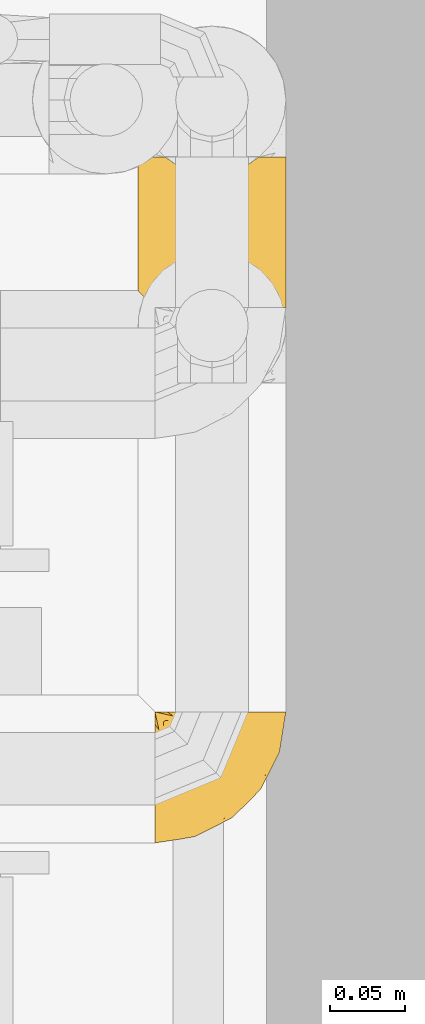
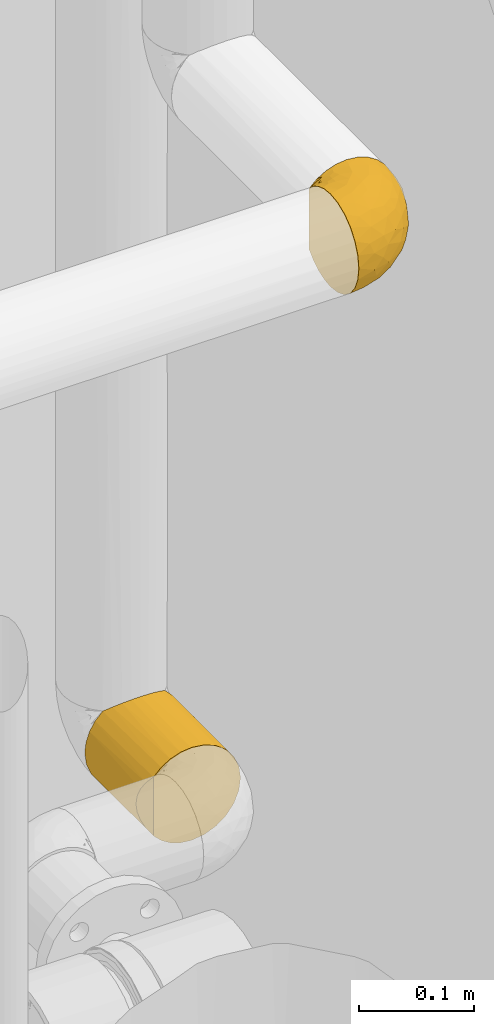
# One storey, part 64 of 94: 2 coverings.
"""IFC2X3 building model written with IfcOpenShell, lengths in millimetres."""

from ifc_helpers import new_model, entity, si_unit, converted_unit, derived_unit, direction, frame, origin, place, context, subcontext, project, spatial, faceted_brep, material, element, save


model = new_model("IFC2X3")

# Units and contexts
model_context = context("Model", 3, precision=0.01, world=origin(), true_north=direction((6.123031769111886e-17, 1.0)))
body_context = subcontext(model_context, "Body", "Model", "MODEL_VIEW")
ifc_project = project(units=[si_unit("LENGTHUNIT", "METRE", prefix="MILLI"), si_unit("AREAUNIT", "SQUARE_METRE"), si_unit("VOLUMEUNIT", "CUBIC_METRE"), converted_unit("PLANEANGLEUNIT", "DEGREE", entity("IfcRatioMeasure", 0.017453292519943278), si_unit("PLANEANGLEUNIT", "RADIAN"), dimensions=[0, 0, 0, 0, 0, 0, 0]), si_unit("MASSUNIT", "GRAM", prefix="KILO"), derived_unit("MASSDENSITYUNIT", [(si_unit("MASSUNIT", "GRAM", prefix="KILO"), 1), (si_unit("LENGTHUNIT", "METRE"), -3)]), derived_unit("IONCONCENTRATIONUNIT", [(si_unit("MASSUNIT", "GRAM", prefix="KILO"), 1), (si_unit("LENGTHUNIT", "METRE"), -3)]), derived_unit("MOMENTOFINERTIAUNIT", [(si_unit("LENGTHUNIT", "METRE"), 4)]), si_unit("TIMEUNIT", "SECOND"), si_unit("FREQUENCYUNIT", "HERTZ"), si_unit("THERMODYNAMICTEMPERATUREUNIT", "DEGREE_CELSIUS"), derived_unit("THERMALTRANSMITTANCEUNIT", [(si_unit("MASSUNIT", "GRAM", prefix="KILO"), 1), (si_unit("THERMODYNAMICTEMPERATUREUNIT", "KELVIN"), -1), (si_unit("TIMEUNIT", "SECOND"), -3)]), derived_unit("THERMALCONDUCTANCEUNIT", [(si_unit("MASSUNIT", "GRAM", prefix="KILO"), 1), (si_unit("THERMODYNAMICTEMPERATUREUNIT", "KELVIN"), -1), (si_unit("TIMEUNIT", "SECOND"), -3), (si_unit("LENGTHUNIT", "METRE"), 1)]), derived_unit("VOLUMETRICFLOWRATEUNIT", [(si_unit("LENGTHUNIT", "METRE"), 3), (si_unit("TIMEUNIT", "SECOND"), -1)]), derived_unit("MASSFLOWRATEUNIT", [(si_unit("MASSUNIT", "GRAM", prefix="KILO"), 1), (si_unit("TIMEUNIT", "SECOND"), -1)]), derived_unit("ROTATIONALFREQUENCYUNIT", [(si_unit("TIMEUNIT", "SECOND"), -1)]), si_unit("ELECTRICCURRENTUNIT", "AMPERE"), si_unit("ELECTRICVOLTAGEUNIT", "VOLT"), si_unit("POWERUNIT", "WATT"), si_unit("FORCEUNIT", "NEWTON", prefix="KILO"), si_unit("ILLUMINANCEUNIT", "LUX"), si_unit("LUMINOUSFLUXUNIT", "LUMEN"), si_unit("LUMINOUSINTENSITYUNIT", "CANDELA"), derived_unit("USERDEFINED", [(si_unit("MASSUNIT", "GRAM", prefix="KILO"), -1), (si_unit("LENGTHUNIT", "METRE"), -2), (si_unit("TIMEUNIT", "SECOND"), 3), (si_unit("LUMINOUSFLUXUNIT", "LUMEN"), 1)]), derived_unit("USERDEFINED", [(si_unit("MASSUNIT", "GRAM", prefix="KILO"), 1), (si_unit("TIMEUNIT", "SECOND"), -3), (si_unit("LENGTHUNIT", "METRE"), 3), (si_unit("ELECTRICCURRENTUNIT", "AMPERE"), -2)]), derived_unit("SOUNDPOWERUNIT", [(si_unit("MASSUNIT", "GRAM", prefix="KILO"), 1), (si_unit("TIMEUNIT", "SECOND"), -3), (si_unit("LENGTHUNIT", "METRE"), 2)]), derived_unit("SOUNDPRESSUREUNIT", [(si_unit("MASSUNIT", "GRAM", prefix="KILO"), 1), (si_unit("LENGTHUNIT", "METRE"), -1), (si_unit("TIMEUNIT", "SECOND"), -2)]), derived_unit("LINEARVELOCITYUNIT", [(si_unit("LENGTHUNIT", "METRE"), 1), (si_unit("TIMEUNIT", "SECOND"), -1)]), si_unit("PRESSUREUNIT", "PASCAL"), derived_unit("USERDEFINED", [(si_unit("MASSUNIT", "GRAM", prefix="KILO"), 1), (si_unit("LENGTHUNIT", "METRE"), -2), (si_unit("TIMEUNIT", "SECOND"), -2)]), derived_unit("LINEARFORCEUNIT", [(si_unit("MASSUNIT", "GRAM", prefix="KILO"), 1), (si_unit("TIMEUNIT", "SECOND"), -2)]), derived_unit("PLANARFORCEUNIT", [(si_unit("MASSUNIT", "GRAM", prefix="KILO"), 1), (si_unit("LENGTHUNIT", "METRE"), -1), (si_unit("TIMEUNIT", "SECOND"), -2)]), derived_unit("SPECIFICHEATCAPACITYUNIT", [(si_unit("THERMODYNAMICTEMPERATUREUNIT", "KELVIN"), -1), (si_unit("LENGTHUNIT", "METRE"), 2), (si_unit("TIMEUNIT", "SECOND"), -2)]), derived_unit("HEATINGVALUEUNIT", [(si_unit("LENGTHUNIT", "METRE"), 2), (si_unit("TIMEUNIT", "SECOND"), -2)]), derived_unit("VAPORPERMEABILITYUNIT", [(si_unit("LENGTHUNIT", "METRE"), -1), (si_unit("TIMEUNIT", "SECOND"), 1)]), derived_unit("DYNAMICVISCOSITYUNIT", [(si_unit("MASSUNIT", "GRAM", prefix="KILO"), 1), (si_unit("TIMEUNIT", "SECOND"), -1), (si_unit("LENGTHUNIT", "METRE"), -1)]), derived_unit("THERMALEXPANSIONCOEFFICIENTUNIT", [(si_unit("THERMODYNAMICTEMPERATUREUNIT", "KELVIN"), -1)]), derived_unit("MODULUSOFELASTICITYUNIT", [(si_unit("MASSUNIT", "GRAM", prefix="KILO"), 1), (si_unit("LENGTHUNIT", "METRE"), -1), (si_unit("TIMEUNIT", "SECOND"), -2)]), derived_unit("ISOTHERMALMOISTURECAPACITYUNIT", [(si_unit("LENGTHUNIT", "METRE"), 3), (si_unit("MASSUNIT", "GRAM", prefix="KILO"), -1)]), derived_unit("MOISTUREDIFFUSIVITYUNIT", [(si_unit("TIMEUNIT", "SECOND"), -1), (si_unit("LENGTHUNIT", "METRE"), 2)])], contexts=[model_context])

# Site, building, storey
site_placement = place(None, origin())
site = spatial("IfcSite", under=ifc_project, at=site_placement, Name="Default", CompositionType="ELEMENT")
building_placement = place(site_placement, origin())
building = spatial("IfcBuilding", under=site, at=building_placement, CompositionType="ELEMENT")
storey_placement = place(building_placement, origin())
storey = spatial("IfcBuildingStorey", under=building, at=storey_placement, Name="Niveau 0", CompositionType="ELEMENT", Elevation=0.0)

# Coverings
ifc_material = material(Name="Isolation - Laine minérale")
covering_1_placement = place(storey_placement, frame((-5828.502951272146, 9531.338570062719, 1313.1524263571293)))
element("IfcCovering", 1, at=covering_1_placement, inside=storey, material=ifc_material, Name="Isolation des canalisations:Laine minérale", ObjectType="Isolation des canalisations:Laine minérale", PredefinedType="INSULATION", context=body_context, shape_type="Brep", body=[
    faceted_brep([(60.92870482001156, 88.74527223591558, 95.02775152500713), (70.24794211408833, 88.74527223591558, 89.17046799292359), (78.0291172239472, 88.74527223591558, 81.38726791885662), (83.88300198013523, 88.74527223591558, 72.06852931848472), (87.51671876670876, 88.74527223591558, 61.68113447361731), (88.74824888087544, 88.74527223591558, 50.75055044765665), (87.51537089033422, 88.74527223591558, 39.80810715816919), (83.87842685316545, 88.74527223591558, 29.417117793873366), (78.02114332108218, 88.74527223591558, 20.097880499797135), (70.23794324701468, 88.74527223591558, 12.316705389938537), (60.91920464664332, 88.74527223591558, 6.462820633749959), (50.53180980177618, 88.74527223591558, 2.829103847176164), (39.60122577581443, 88.74527223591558, 1.597573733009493), (28.94206896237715, 88.74527223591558, 2.7666573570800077), (18.793644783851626, 88.74527223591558, 6.217909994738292), (9.636914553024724, 88.74527223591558, 11.78552878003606), (1.9137793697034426, 88.74527223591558, 19.19439233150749), (1.9136313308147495, 88.74527223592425, 21.638661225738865), (1.913523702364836, 88.74527223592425, 23.41571369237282), (1.9134160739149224, 88.74527223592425, 25.19276615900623), (1.9133252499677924, 88.74527223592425, 26.692359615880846), (1.913234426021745, 88.74527223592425, 28.191953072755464), (1.913052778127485, 88.74527223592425, 31.19113998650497), (1.912871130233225, 88.74527223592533, 34.190326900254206), (1.9126894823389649, 88.74527223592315, 37.18951381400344), (1.9125078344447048, 88.74527223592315, 40.188700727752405), (1.9124170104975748, 88.74527223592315, 41.68829418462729), (1.9123261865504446, 88.74527223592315, 43.18788764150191), (1.9121781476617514, 88.74527223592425, 45.63215653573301), (1.9120301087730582, 88.74527223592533, 48.07642542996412), (1.911882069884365, 88.74527223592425, 50.52069432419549), (1.9117340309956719, 88.74527223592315, 52.96496321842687), (1.9115859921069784, 88.74527223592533, 55.40923211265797), (1.9114379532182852, 88.74527223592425, 57.853501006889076), (1.911289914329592, 88.74527223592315, 60.297769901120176), (1.9111418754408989, 88.74527223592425, 62.74203879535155), (1.9109938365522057, 88.74527223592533, 65.18630768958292), (1.9108457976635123, 88.74527223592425, 67.63057658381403), (1.910697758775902, 88.74527223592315, 70.07484547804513), (1.9105497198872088, 88.74527223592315, 72.51911437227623), (1.9104016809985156, 88.74527223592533, 74.9633832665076), (1.9102536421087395, 88.74527223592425, 77.40765216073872), (1.910105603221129, 88.74527223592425, 79.85192105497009), (1.9099575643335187, 88.74527223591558, 82.29618994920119), (9.648808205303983, 88.74527223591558, 89.71876169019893), (18.80968562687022, 88.74527223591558, 95.2847281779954), (28.956714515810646, 88.74527223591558, 98.7317402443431), (39.595272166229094, 88.74527223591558, 99.89757355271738), (50.53771545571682, 88.74527223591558, 98.6646955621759), (1.600609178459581, 80.69858068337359, 11.77705679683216), (1.6009462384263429, 71.54185633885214, 6.211862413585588), (1.6011551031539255, 61.39669016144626, 2.7632985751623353), (1.6012258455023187, 50.74527223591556, 1.5952722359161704), (1.6011244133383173, 38.02431616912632, 3.2700178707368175), (1.6008270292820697, 26.17027223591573, 8.180123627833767), (1.6003539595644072, 15.990973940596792, 15.990973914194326), (1.5997374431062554, 8.180123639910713, 26.170272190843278), (1.5990194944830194, 3.270017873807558, 38.02431610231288), (1.5982490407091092, 1.5952722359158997, 50.745272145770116), (1.597478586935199, 3.270017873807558, 63.46622818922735), (1.596760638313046, 8.180123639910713, 75.32027210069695), (1.5961441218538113, 15.990973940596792, 85.4995703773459), (1.5956710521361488, 26.17027223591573, 93.31042066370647), (1.595373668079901, 38.02431616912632, 98.22052642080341), (1.5952722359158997, 50.74527223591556, 99.89527205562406), (1.595342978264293, 61.39669016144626, 98.7272457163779), (1.5955518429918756, 71.54185633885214, 95.27868187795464), (1.5958889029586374, 80.69858068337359, 89.71348749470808), (1.596338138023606, 88.43165280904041, 82.29617095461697), (1.596486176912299, 88.43165280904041, 79.85190206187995), (1.596577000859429, 88.43165280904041, 78.35230860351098), (1.5966964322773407, 88.43165280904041, 76.38037742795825), (1.5968158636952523, 88.43165280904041, 74.40844625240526), (1.5969352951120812, 88.4316528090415, 72.43651507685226), (1.5970547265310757, 88.43165280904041, 70.46458390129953), (1.5971741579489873, 88.43165280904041, 68.49265272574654), (1.597293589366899, 88.43165280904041, 66.52072155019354), (1.5974130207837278, 88.43165280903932, 64.54879037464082), (1.5975324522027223, 88.43165280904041, 62.57685919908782), (1.597651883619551, 88.43165280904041, 60.604928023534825), (1.5977713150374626, 88.4316528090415, 58.6329968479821), (1.5978907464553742, 88.43165280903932, 56.6610656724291), (1.598010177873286, 88.43165280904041, 54.68913449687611), (1.5981296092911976, 88.43165280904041, 52.71720332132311), (1.5982490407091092, 88.43165280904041, 50.745272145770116), (1.5983684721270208, 88.43165280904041, 48.77334097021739), (1.5984879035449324, 88.43165280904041, 46.801409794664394), (1.5986073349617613, 88.43165280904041, 44.82947861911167), (1.5987267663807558, 88.4316528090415, 42.85754744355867), (1.5988461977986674, 88.43165280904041, 40.88561626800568), (1.5989656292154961, 88.43165280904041, 38.91368509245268), (1.599085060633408, 88.43165280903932, 36.941753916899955), (1.5992044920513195, 88.43165280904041, 34.96982274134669), (1.5993861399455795, 88.43165280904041, 31.970635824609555), (1.5995677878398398, 88.4316528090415, 28.971448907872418), (1.599715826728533, 88.43165280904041, 26.52718001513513), (1.599863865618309, 88.43165280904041, 24.082911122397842), (1.6000119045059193, 88.43165280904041, 21.63864222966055), (1.6001599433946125, 88.43165280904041, 19.194373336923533), (1.812437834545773, 88.51635690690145, 53.7533525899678), (1.8213470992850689, 88.52492022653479, 51.832778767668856), (1.821649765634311, 88.5258216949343, 61.472915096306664), (1.8149649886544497, 88.51932032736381, 63.56283845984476), (1.802762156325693, 88.50736577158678, 48.00103931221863), (1.806851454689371, 88.51252801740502, 77.25000657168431), (1.8504013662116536, 88.5612663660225, 80.69915357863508), (1.825921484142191, 88.52905186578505, 42.43808513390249), (1.821700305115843, 88.52350980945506, 22.860789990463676), (1.8196172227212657, 88.5215555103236, 24.70022970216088), (1.8257393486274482, 88.53071361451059, 71.3701032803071), (1.8154057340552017, 88.52032288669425, 73.4038519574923), (1.8392149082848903, 88.54408236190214, 44.41001713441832), (1.8146507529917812, 88.51753811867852, 37.92773206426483), (1.811007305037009, 88.51424763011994, 39.8130981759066), (1.8285637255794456, 88.5314403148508, 35.95580176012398), (1.814438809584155, 88.51801699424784, 49.75931951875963), (1.8182940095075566, 88.52350981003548, 79.1021188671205), (1.819403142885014, 88.52112749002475, 21.027588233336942), (1.8065736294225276, 88.51110665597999, 55.67511318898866), (1.805027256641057, 88.51037001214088, 67.50670013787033), (1.8098887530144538, 88.51465616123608, 65.61455975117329), (1.810266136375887, 88.5132544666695, 34.10459364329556), (1.8094090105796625, 88.51376773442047, 57.552187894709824), (1.807096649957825, 88.51264803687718, 75.39442478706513), (1.8181005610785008, 88.5235098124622, 82.29618438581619), (1.8467305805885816, 88.59262879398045, 82.29618611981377), (1.8753606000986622, 88.66174777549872, 82.29618785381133), (1.8219223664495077, 88.5235098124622, 19.194386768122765), (1.7528033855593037, 88.49487979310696, 19.19438258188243), (1.683684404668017, 88.46624977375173, 19.194378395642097), (1.8346372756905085, 88.5378905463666, 32.212171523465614), (1.8119644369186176, 88.51680397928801, 69.43560512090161), (1.8213260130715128, 88.52455691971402, 46.248301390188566), (1.8182873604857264, 88.52232177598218, 59.49062660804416), (1.8390196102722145, 88.54277043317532, 29.419266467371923), (1.8174912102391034, 88.51964668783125, 27.442150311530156), (1.6798625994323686, 88.46624977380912, 82.29617601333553), (1.7489815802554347, 88.49487979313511, 82.29618019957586), (1.8791824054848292, 88.66174777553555, 19.194390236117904), (1.8505523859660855, 88.59262879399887, 19.194388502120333), (5.125538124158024, 66.84532494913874, 4.2104972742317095), (4.409954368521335, 76.5927881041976, 8.744349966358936), (9.268261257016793, 67.93076460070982, 4.2107481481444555), (7.2130993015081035, 79.77802179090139, 9.955923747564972), (11.101225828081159, 53.290789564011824, 1.5958476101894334), (9.057595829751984, 52.7432005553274, 1.5957238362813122), (34.510191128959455, 69.7452722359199, 1.5972653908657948), (23.950886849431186, 74.32039473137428, 2.936851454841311), (22.40593543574, 81.07886680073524, 4.214712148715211), (20.601225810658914, 55.83630689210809, 1.5964229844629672), (9.672241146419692, 80.67264697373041, 9.405794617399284), (10.557070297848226, 83.13763204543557, 9.96402992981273), (16.025323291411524, 66.39579772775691, 2.9365154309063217), (23.491633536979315, 85.2211537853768, 4.2147779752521), (13.742701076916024, 85.93765126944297, 8.751390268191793), (10.697130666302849, 72.79903813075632, 5.69117869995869), (37.60329750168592, 81.28890239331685, 1.5974527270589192), (37.0557084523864, 79.24527223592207, 1.5974195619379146), (16.734638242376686, 73.61168502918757, 4.483536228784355), (27.555708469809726, 62.79078956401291, 1.5968441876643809), (16.466360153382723, 78.26898539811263, 5.766957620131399), (15.017299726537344, 42.71659351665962, 2.6125376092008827), (24.43569184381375, 46.3391033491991, 2.6589146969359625), (36.49830628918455, 31.440845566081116, 11.133691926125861), (31.20882164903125, 17.67282959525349, 20.826441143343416), (19.17976044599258, 23.1389879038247, 11.753019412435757), (23.3408187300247, 36.2607021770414, 5.337909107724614), (11.46575858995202, 32.79943692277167, 5.337190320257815), (52.823733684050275, 18.239441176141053, 50.74837465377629), (28.529080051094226, 5.860696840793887, 50.746903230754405), (36.46895004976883, 10.09253095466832, 40.34185140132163), (64.56109797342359, 76.48910815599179, 9.128056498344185), (54.102148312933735, 75.175259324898, 4.354225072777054), (60.7817349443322, 29.562886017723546, 32.650538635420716), (59.57447306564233, 34.954708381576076, 23.77242057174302), (75.05221480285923, 46.44316922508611, 35.619766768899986), (19.030210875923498, 4.214063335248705, 41.697189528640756), (43.10371936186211, 17.10886083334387, 30.512331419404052), (46.84138436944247, 25.5931587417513, 21.75117045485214), (15.055480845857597, 12.936813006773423, 20.825462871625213), (23.241930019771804, 8.193374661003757, 31.93769349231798), (53.24642555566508, 37.51142897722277, 15.98747406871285), (45.830841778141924, 41.46157905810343, 9.512382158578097), (56.64112746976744, 49.733323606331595, 11.409102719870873), (46.29467440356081, 61.57059128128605, 3.726239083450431), (60.30196070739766, 62.89209880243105, 9.127798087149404), (72.03328828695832, 70.54017915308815, 15.988613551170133), (84.48282428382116, 61.81444117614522, 50.750292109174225), (83.30309850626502, 67.6249225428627, 34.51029949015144), (64.73100228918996, 48.02305876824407, 18.539758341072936), (74.45818949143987, 56.65671676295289, 24.592606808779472), (79.74469608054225, 73.53357104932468, 24.592926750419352), (51.840443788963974, 19.261963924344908, 39.07890166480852), (64.9988492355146, 30.008052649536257, 42.35002472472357), (37.182935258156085, 56.96722300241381, 2.565407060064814), (72.10407997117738, 37.51978749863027, 50.74954238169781), (37.65160985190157, 46.87511479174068, 4.724632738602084), (32.1664897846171, 11.140369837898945, 69.55601236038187), (18.642073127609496, 4.095656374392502, 59.586140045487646), (35.768635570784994, 9.50247429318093, 59.86749528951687), (47.844538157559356, 17.812384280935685, 66.14069790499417), (15.280027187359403, 6.466565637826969, 69.55499080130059), (65.816275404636, 54.5418837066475, 85.49721135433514), (64.55546793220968, 42.32008170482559, 78.99240277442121), (74.4637066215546, 56.65317707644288, 76.89184391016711), (53.251624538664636, 37.50209525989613, 85.49607367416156), (54.6284910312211, 30.584563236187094, 78.28987695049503), (54.10920276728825, 75.17052823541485, 97.13797153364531), (19.802559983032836, 44.78912737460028, 98.95413842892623), (20.595272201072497, 55.83630689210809, 99.89642280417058), (11.09527221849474, 53.290789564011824, 99.89584742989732), (83.30623893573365, 67.62586672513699, 66.97668734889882), (21.100847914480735, 14.263403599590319, 80.66707767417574), (60.31048883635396, 62.885892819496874, 92.36048289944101), (64.57075570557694, 76.48653547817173, 92.36074047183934), (13.465755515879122, 21.869885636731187, 89.7393081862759), (16.33603658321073, 33.88211097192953, 96.15484438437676), (41.93130183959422, 22.251999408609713, 79.62728153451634), (27.7156290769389, 26.047823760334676, 89.7401720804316), (59.122213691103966, 24.329288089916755, 59.511643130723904), (60.782080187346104, 29.560349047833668, 68.83811313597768), (10.513928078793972, 42.32143211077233, 99.01317501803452), (79.7506633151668, 73.5314346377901, 76.89216435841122), (75.05535861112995, 46.439690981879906, 65.86097147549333), (72.04190982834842, 70.53686254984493, 85.49721007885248), (46.2908025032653, 61.55381762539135, 97.7665918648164), (34.504237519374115, 69.7452722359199, 99.89726521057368), (36.10524890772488, 54.855477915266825, 98.79139945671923), (27.549754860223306, 62.790789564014, 99.89684400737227), (37.59734389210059, 81.28890239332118, 99.89745254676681), (37.049754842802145, 79.24527223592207, 99.89741938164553), (41.92893725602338, 37.17763207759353, 91.5063030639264), (26.19770746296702, 38.28745994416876, 96.42832113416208), (50.23455026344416, 48.939507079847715, 93.15286513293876), (27.449859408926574, 49.619322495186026, 99.08493754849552), (42.668602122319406, 29.4237689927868, 86.09356300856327), (34.95118101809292, 44.39993285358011, 96.68018909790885), (9.262624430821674, 67.93076584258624, 97.28072448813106), (12.075131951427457, 73.87629022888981, 95.72725850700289), (16.01989651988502, 66.3972519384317, 98.55553187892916), (5.11990138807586, 66.84532555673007, 97.28047374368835), (4.404866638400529, 76.59278866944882, 92.74653425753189), (7.208478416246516, 79.77567656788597, 91.53675094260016), (7.659156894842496, 82.68391989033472, 90.11312334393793), (16.723655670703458, 73.61706313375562, 97.00611122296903), (10.583278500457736, 83.12402653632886, 91.5501983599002), (22.422248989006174, 81.07735934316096, 97.28553166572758), (23.50735499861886, 85.22095110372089, 97.28559752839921), (13.756487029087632, 85.9346659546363, 92.75221132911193), (23.942918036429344, 74.3219171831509, 98.55576679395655), (17.556966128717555, 79.64839749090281, 95.80679780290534)], [[[0, 1, 2, 3, 4, 5, 6, 7, 8, 9, 10, 11, 12, 13, 14, 15, 16, 17, 18, 19, 20, 21, 22, 23, 24, 25, 26, 27, 28, 29, 30, 31, 32, 33, 34, 35, 36, 37, 38, 39, 40, 41, 42, 43, 44, 45, 46, 47, 48]], [[49, 50, 51, 52, 53, 54, 55, 56, 57, 58, 59, 60, 61, 62, 63, 64, 65, 66, 67, 68, 69, 70, 71, 72, 73, 74, 75, 76, 77, 78, 79, 80, 81, 82, 83, 84, 85, 86, 87, 88, 89, 90, 91, 92, 93, 94, 95, 96, 97, 98]], [[99, 100, 83]], [[101, 102, 35]], [[85, 103, 86]], [[71, 70, 104]], [[105, 69, 68]], [[27, 26, 106]], [[18, 107, 108]], [[109, 73, 110]], [[28, 27, 111]], [[25, 112, 113]], [[108, 96, 95]], [[114, 92, 91]], [[103, 85, 115]], [[96, 107, 97]], [[116, 70, 69]], [[107, 17, 117]], [[78, 102, 101]], [[99, 118, 32]], [[76, 119, 120]], [[121, 92, 114]], [[112, 90, 113]], [[88, 111, 106]], [[40, 39, 110]], [[107, 96, 108]], [[32, 118, 122]], [[91, 90, 112]], [[37, 120, 119]], [[84, 115, 85]], [[69, 105, 116]], [[71, 123, 72]], [[105, 124, 125, 126, 43]], [[117, 17, 16]], [[41, 116, 42]], [[117, 127, 128, 129, 98]], [[110, 123, 40]], [[42, 116, 105]], [[121, 23, 130]], [[24, 114, 112]], [[114, 24, 23]], [[104, 123, 71]], [[91, 112, 114]], [[104, 116, 41]], [[24, 112, 25]], [[110, 72, 123]], [[36, 120, 37]], [[40, 123, 41]], [[74, 73, 109]], [[131, 75, 74]], [[119, 131, 37]], [[109, 110, 39]], [[109, 39, 38]], [[73, 72, 110]], [[123, 104, 41]], [[116, 104, 70]], [[26, 25, 113]], [[113, 89, 106]], [[87, 86, 132]], [[113, 106, 26]], [[76, 75, 119]], [[132, 111, 87]], [[106, 111, 27]], [[132, 28, 111]], [[87, 111, 88]], [[88, 106, 89]], [[113, 90, 89]], [[131, 119, 75]], [[38, 37, 131]], [[120, 36, 102]], [[131, 109, 38]], [[109, 131, 74]], [[78, 77, 102]], [[77, 120, 102]], [[77, 76, 120]], [[122, 80, 133]], [[36, 35, 102]], [[33, 122, 133]], [[79, 78, 101]], [[34, 101, 35]], [[132, 29, 28]], [[80, 79, 133]], [[29, 103, 115]], [[30, 29, 115]], [[86, 103, 132]], [[100, 115, 84]], [[31, 30, 100]], [[115, 100, 30]], [[32, 31, 99]], [[118, 81, 122]], [[100, 84, 83]], [[99, 82, 118]], [[81, 118, 82]], [[33, 32, 122]], [[82, 99, 83]], [[100, 99, 31]], [[34, 33, 133]], [[122, 81, 80]], [[133, 101, 34]], [[101, 133, 79]], [[134, 94, 93]], [[23, 121, 114]], [[132, 103, 29]], [[121, 93, 92]], [[93, 121, 130]], [[97, 107, 117]], [[108, 20, 19, 18]], [[21, 135, 134]], [[20, 135, 21]], [[134, 135, 94]], [[108, 95, 135]], [[108, 135, 20]], [[135, 95, 94]], [[134, 22, 21]], [[130, 22, 134]], [[42, 105, 43]], [[105, 68, 136, 137, 124]], [[97, 117, 98]], [[117, 16, 138, 139, 127]], [[18, 17, 107]], [[93, 130, 134]], [[22, 130, 23]], [[140, 141, 142]], [[143, 129, 128, 127]], [[51, 144, 145, 52]], [[146, 147, 148]], [[142, 149, 144]], [[150, 127, 151]], [[50, 140, 51]], [[142, 152, 149]], [[51, 140, 144]], [[129, 143, 141]], [[14, 13, 153]], [[148, 151, 154]], [[155, 141, 143]], [[151, 138, 154]], [[14, 153, 154]], [[16, 15, 138]], [[13, 12, 156, 157]], [[152, 155, 158]], [[159, 158, 147]], [[157, 148, 153]], [[14, 154, 15]], [[49, 98, 129]], [[49, 129, 141]], [[141, 50, 49]], [[160, 148, 147]], [[146, 148, 157]], [[138, 15, 154]], [[150, 158, 155]], [[151, 127, 139, 138]], [[141, 140, 50]], [[144, 140, 142]], [[157, 153, 13]], [[154, 153, 148]], [[149, 152, 159]], [[160, 147, 158]], [[147, 146, 159]], [[155, 152, 142]], [[159, 152, 158]], [[127, 150, 143]], [[160, 150, 151]], [[150, 160, 158]], [[148, 160, 151]], [[141, 155, 142]], [[155, 143, 150]], [[156, 12, 11]], [[161, 149, 162]], [[163, 164, 165]], [[166, 167, 161]], [[168, 169, 170]], [[54, 165, 55]], [[171, 172, 10]], [[173, 174, 175]], [[57, 176, 58]], [[173, 177, 178]], [[179, 56, 55]], [[54, 167, 165]], [[170, 180, 177]], [[56, 179, 180]], [[167, 54, 53]], [[181, 182, 183]], [[184, 146, 172]], [[172, 185, 184]], [[186, 185, 171]], [[186, 9, 8]], [[172, 146, 157, 156]], [[172, 11, 10]], [[173, 178, 174]], [[6, 187, 188]], [[189, 186, 190]], [[191, 186, 8]], [[175, 190, 188]], [[168, 192, 193]], [[189, 190, 174]], [[56, 180, 57]], [[8, 7, 191]], [[188, 7, 6]], [[6, 5, 187]], [[190, 191, 188]], [[159, 194, 162]], [[175, 187, 195]], [[177, 180, 164]], [[10, 9, 171]], [[176, 180, 170]], [[156, 11, 172]], [[163, 165, 166]], [[179, 165, 164]], [[53, 52, 145]], [[185, 189, 183]], [[184, 196, 194]], [[188, 191, 7]], [[186, 191, 190]], [[186, 171, 9]], [[172, 171, 185]], [[187, 175, 188]], [[193, 175, 195]], [[196, 163, 166]], [[163, 181, 178]], [[162, 166, 161]], [[184, 185, 183]], [[178, 177, 164]], [[177, 192, 170]], [[177, 173, 192]], [[176, 170, 169]], [[58, 176, 169]], [[57, 180, 176]], [[193, 192, 173]], [[168, 170, 192]], [[175, 193, 173]], [[168, 193, 195]], [[163, 178, 164]], [[184, 194, 146]], [[178, 181, 174]], [[189, 174, 181]], [[175, 174, 190]], [[183, 189, 181]], [[186, 189, 185]], [[182, 181, 163]], [[183, 182, 184]], [[163, 196, 182]], [[184, 182, 196]], [[165, 179, 55]], [[180, 179, 164]], [[161, 53, 145]], [[165, 167, 166]], [[53, 161, 167]], [[161, 145, 144, 149]], [[159, 162, 149]], [[196, 166, 162]], [[162, 194, 196]], [[146, 194, 159]], [[197, 198, 199]], [[58, 169, 198]], [[197, 199, 200]], [[198, 197, 201]], [[202, 203, 204]], [[60, 59, 201]], [[205, 206, 203]], [[0, 48, 207]], [[208, 209, 210]], [[187, 4, 211]], [[201, 212, 60]], [[213, 214, 207]], [[61, 215, 62]], [[62, 215, 216]], [[3, 211, 4]], [[217, 218, 212]], [[219, 220, 200]], [[216, 208, 221]], [[3, 2, 222]], [[62, 216, 63]], [[61, 60, 212]], [[211, 3, 222]], [[5, 4, 187]], [[217, 197, 200]], [[203, 223, 204]], [[2, 1, 224]], [[225, 213, 207]], [[204, 222, 224]], [[1, 0, 214]], [[204, 224, 202]], [[207, 226, 225]], [[227, 226, 228]], [[223, 211, 204]], [[214, 224, 1]], [[202, 224, 213]], [[48, 47, 229]], [[207, 229, 230, 226]], [[211, 223, 187]], [[218, 231, 232]], [[48, 229, 207]], [[205, 233, 231]], [[233, 213, 225]], [[217, 212, 197]], [[215, 212, 218]], [[228, 234, 227]], [[233, 205, 202]], [[208, 234, 209]], [[63, 221, 64]], [[235, 205, 231]], [[207, 214, 0]], [[224, 214, 213]], [[224, 222, 2]], [[211, 222, 204]], [[219, 223, 220]], [[187, 223, 195]], [[227, 233, 225]], [[234, 228, 209]], [[231, 233, 236]], [[221, 208, 210]], [[232, 208, 216]], [[64, 221, 210]], [[216, 221, 63]], [[233, 202, 213]], [[203, 202, 205]], [[205, 235, 206]], [[223, 203, 220]], [[200, 206, 217]], [[220, 203, 206]], [[232, 231, 236]], [[235, 218, 217]], [[212, 215, 61]], [[216, 215, 218]], [[218, 232, 216]], [[234, 232, 236]], [[232, 234, 208]], [[234, 236, 227]], [[233, 227, 236]], [[226, 227, 225]], [[198, 201, 59]], [[212, 201, 197]], [[58, 198, 59]], [[198, 169, 199]], [[169, 168, 199]], [[219, 200, 199]], [[219, 199, 168]], [[200, 220, 206]], [[168, 195, 219]], [[223, 219, 195]], [[218, 235, 231]], [[206, 235, 217]], [[65, 64, 210]], [[209, 237, 210]], [[238, 237, 239]], [[66, 240, 241]], [[242, 136, 241]], [[243, 137, 242]], [[243, 244, 245]], [[65, 240, 66]], [[136, 68, 67]], [[136, 67, 241]], [[246, 226, 230]], [[66, 241, 67]], [[210, 237, 240]], [[45, 247, 46]], [[209, 239, 237]], [[246, 247, 248]], [[46, 247, 230]], [[249, 250, 244]], [[239, 228, 244]], [[226, 246, 249]], [[250, 248, 245]], [[44, 43, 126]], [[237, 242, 241]], [[248, 45, 44]], [[44, 126, 248]], [[46, 230, 229, 47]], [[245, 126, 125]], [[126, 245, 248]], [[243, 124, 137]], [[210, 240, 65]], [[241, 240, 237]], [[248, 247, 45]], [[230, 247, 246]], [[226, 249, 228]], [[238, 239, 244]], [[239, 209, 228]], [[250, 249, 246]], [[228, 249, 244]], [[243, 242, 238]], [[136, 242, 137]], [[124, 243, 125]], [[125, 243, 245]], [[243, 238, 244]], [[237, 238, 242]], [[248, 250, 246]], [[244, 250, 245]]]),
])
covering_2_placement = place(storey_placement, frame((-5839.610272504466, 9887.374690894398, 629.5994123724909)))
element("IfcCovering", 2, at=covering_2_placement, inside=storey, material=ifc_material, Name="Isolation des canalisations:Laine minérale", ObjectType="Isolation des canalisations:Laine minérale", PredefinedType="INSULATION", context=body_context, shape_type="Brep", body=[
    faceted_brep([(6.323289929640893, 101.47147891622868, -29.696056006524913), (12.012814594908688, 101.47134058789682, -20.474442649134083), (19.58480412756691, 101.47122478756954, -12.7247338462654), (81.86524379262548, 101.47123479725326, -12.7243269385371), (89.43743327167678, 101.47135303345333, -20.474063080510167), (95.12711724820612, 101.47149319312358, -29.695766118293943), (98.65688133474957, 101.47164844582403, -39.94003352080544), (99.85527223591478, 101.47181148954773, -50.7251041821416), (98.18120808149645, 101.47200322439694, -63.440883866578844), (93.27310032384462, 101.4721813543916, -75.29010417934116), (85.46542839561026, 101.47233374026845, -85.46526033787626), (75.29027223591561, 101.47244999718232, -93.27293226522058), (63.44105192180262, 101.47252220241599, -98.18104002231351), (50.72527223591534, 101.4725454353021, -99.85510417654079), (38.00949255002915, 101.47251811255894, -98.18104002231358), (26.160272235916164, 101.47244209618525, -93.27293226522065), (15.98511607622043, 101.4723225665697, -85.4652603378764), (8.177444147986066, 101.47216766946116, -75.2901041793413), (3.26933639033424, 101.47198796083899, -63.44088386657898), (1.5952722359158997, 101.47179568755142, -50.725104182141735), (2.7936281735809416, 101.47163303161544, -39.94018890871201), (50.725288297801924, 1.5950067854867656, -1.596612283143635), (39.94192775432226, 1.595023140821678, -2.794618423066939), (29.699140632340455, 1.5950747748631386, -6.323256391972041), (20.478424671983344, 1.5951591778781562, -12.011187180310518), (12.728989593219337, 1.5952722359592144, -19.581176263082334), (12.721599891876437, 1.5962126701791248, -81.86303094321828), (20.47153154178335, 1.5963282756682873, -89.43665105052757), (29.693876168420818, 1.596415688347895, -95.12747492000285), (39.939105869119, 1.5964706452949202, -98.65797119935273), (50.725288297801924, 1.5964904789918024, -99.85661227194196), (63.4410679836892, 1.596467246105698, -98.18254811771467), (75.29028829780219, 1.5963950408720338, -93.27444036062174), (85.46544445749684, 1.596278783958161, -85.46676843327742), (93.2731163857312, 1.5961263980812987, -75.29161227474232), (98.18122414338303, 1.595948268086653, -63.44239196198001), (99.85528829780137, 1.5957565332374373, -50.72661227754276), (98.18122414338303, 1.5955642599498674, -38.01083259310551), (93.2731163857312, 1.5953845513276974, -26.161612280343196), (85.46544445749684, 1.5952296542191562, -15.986456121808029), (75.29028829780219, 1.5951101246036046, -8.17878419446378), (63.4410679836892, 1.5950341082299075, -3.2706764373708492), (7.962947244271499, 6.35558386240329, -74.91619011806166), (4.460407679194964, 9.85891575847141, -67.25881475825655), (2.3168657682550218, 12.003300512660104, -59.11583473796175), (1.5952865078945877, 12.725748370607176, -50.72644421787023), (2.3173635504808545, 12.004540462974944, -42.33420369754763), (4.462369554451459, 9.860378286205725, -34.18867105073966), (7.967253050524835, 6.35628850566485, -26.52928047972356), (26.532205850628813, 96.71123312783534, -7.964769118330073), (34.19048137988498, 93.20769178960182, -4.461230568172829), (42.334604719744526, 91.06354664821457, -2.3170639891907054), (50.72527402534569, 90.341799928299, -1.5952722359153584), (59.11578496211, 91.06363157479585, -2.3170365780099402), (67.25976348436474, 93.20780513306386, -4.461122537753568), (74.9179210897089, 96.71131993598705, -7.964532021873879)], [[[0, 1, 2, 3, 4, 5, 6, 7, 8, 9, 10, 11, 12, 13, 14, 15, 16, 17, 18, 19, 20]], [[21, 22, 23, 24, 25, 26, 27, 28, 29, 30, 31, 32, 33, 34, 35, 36, 37, 38, 39, 40, 41]], [[35, 34, 9, 8]], [[36, 35, 8, 7]], [[34, 33, 10, 9]], [[12, 11, 32, 31]], [[13, 12, 31, 30]], [[33, 32, 11, 10]], [[13, 30, 29]], [[14, 29, 28]], [[15, 28, 27]], [[13, 29, 14]], [[14, 28, 15]], [[27, 16, 15]], [[27, 26, 16]], [[26, 42, 17]], [[43, 44, 18]], [[42, 43, 17]], [[17, 43, 18]], [[19, 18, 44]], [[45, 19, 44]], [[26, 17, 16]], [[46, 47, 20]], [[48, 25, 1]], [[47, 48, 0]], [[45, 46, 19]], [[20, 19, 46]], [[47, 0, 20]], [[48, 1, 0]], [[25, 2, 1]], [[49, 24, 23]], [[50, 23, 22]], [[51, 22, 21]], [[49, 2, 24]], [[51, 50, 22]], [[52, 51, 21]], [[49, 23, 50]], [[24, 2, 25]], [[53, 52, 21]], [[53, 21, 41]], [[54, 41, 40]], [[54, 53, 41]], [[3, 55, 40]], [[54, 40, 55]], [[40, 39, 3]], [[4, 39, 38]], [[5, 38, 37]], [[6, 37, 36]], [[4, 38, 5]], [[5, 37, 6]], [[36, 7, 6]], [[39, 4, 3]], [[49, 50, 51, 52, 53, 54, 55, 3, 2]], [[46, 45, 44, 43, 42, 26, 25, 48, 47]]]),
])

save(model, "model.ifc")
